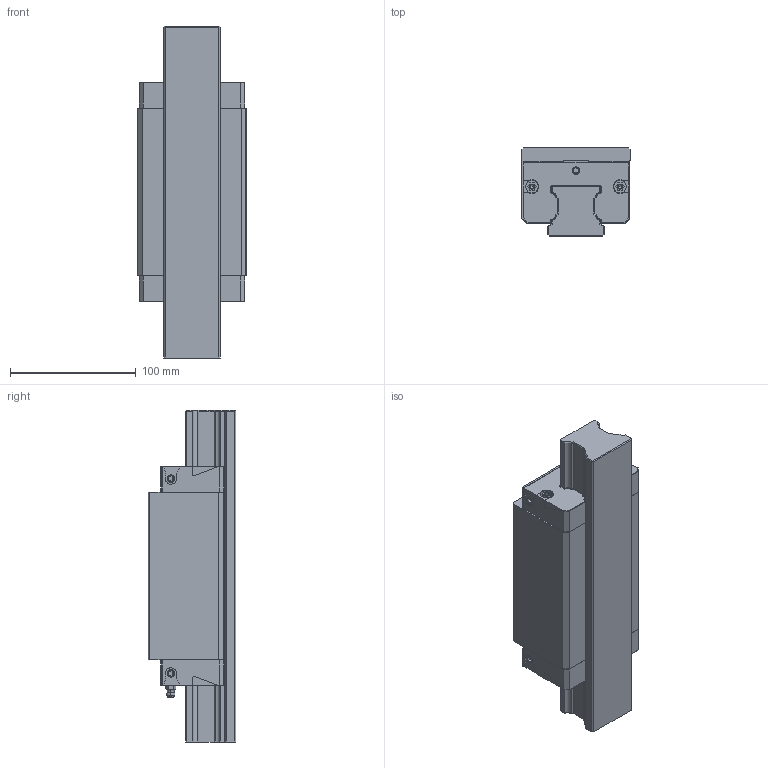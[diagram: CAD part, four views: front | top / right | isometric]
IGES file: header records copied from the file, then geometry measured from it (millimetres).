
Start section: 3D InterOp IGES (v. 2019 1.0.2), Spatial Corp. Copyright (c) 1999-2017.
Global section: file name: R1624_size45.igs; native system: Spatial Corp.; preprocessor: 3D InterOp GENERIC/IGES 3.0; author: Noname; organization: Noname; date: 20220629.124926; units: millimetre
Bounding box: 86 x 70 x 264.1 mm (x, y, z)
Surface area: 154214.7 mm2 (no closed solid volume)
Topology: 0 solids, 0 shells, 531 faces, 2816 edges, 2786 vertices
Faces by surface type: extrusion 292, revolution 239
